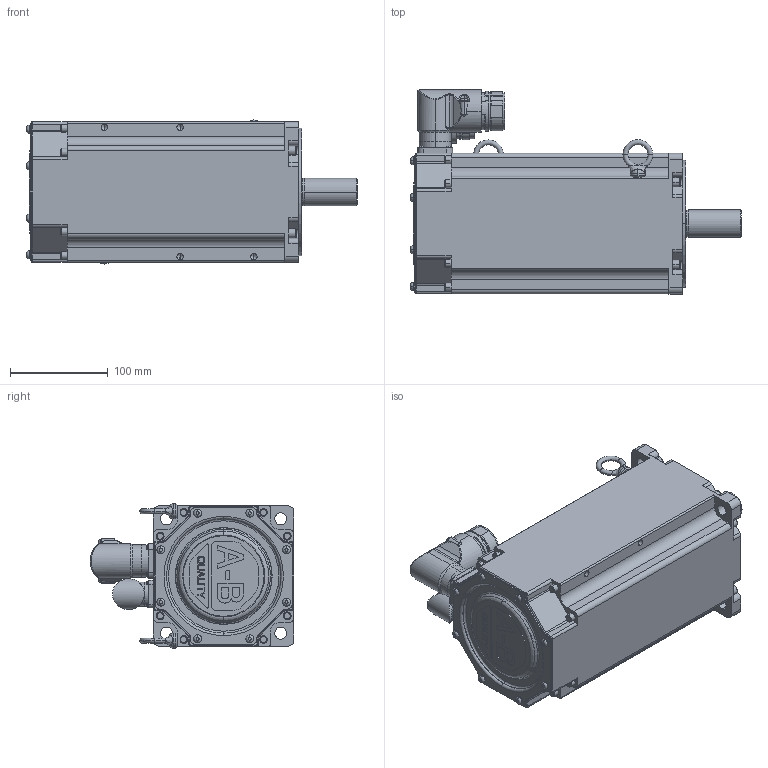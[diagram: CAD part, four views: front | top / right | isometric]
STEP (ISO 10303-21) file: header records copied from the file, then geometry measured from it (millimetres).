
FILE_DESCRIPTION (( 'STEP AP214' ), '1' );
FILE_NAME ('Rockwell Automation-MPL-A560x-xK72AA.STEP', '2015-07-08T13:17:24', ( 'Windows User' ), ( '' ), 'SwSTEP 2.0', 'SolidWorks 2015', '' );
FILE_SCHEMA (( 'AUTOMOTIVE_DESIGN' ));
Length unit declared in the file: inch
Products named in the file (6): Rockwell Automation-MPL-A560x-xK72AA_MPL-5xx-Eyebolt; Rockwell Automation-MPL-A560x-xK72AA_MPL-5xx-Encoder Connector; Rockwell Automation-MPL-A560x-xK72AA_MPL-5xx-Power Connector-M40; Rockwell Automation-MPL-A560x-xK72AA_MPL-5xx-Shaft_560-SHAFT-KEYLESS; Rockwell Automation-MPL-A560x-xK72AA_MPL-5xx-body_A560; Rockwell Automation-MPL-A560x-xK72AA
Assembly tree (6 placements, depth 2):
  Rockwell Automation-MPL-A560x-xK72AA
    Rockwell Automation-MPL-A560x-xK72AA_MPL-5xx-body_A560
    Rockwell Automation-MPL-A560x-xK72AA_MPL-5xx-Shaft_560-SHAFT-KEYLESS
    Rockwell Automation-MPL-A560x-xK72AA_MPL-5xx-Power Connector-M40
    Rockwell Automation-MPL-A560x-xK72AA_MPL-5xx-Encoder Connector
    Rockwell Automation-MPL-A560x-xK72AA_MPL-5xx-Eyebolt  x2
Bounding box: 337.82 x 208.24 x 147.22 mm (x, y, z)
Volume: 2861528.6 mm3; surface area: 403296.4 mm2
Topology: 6 solids, 6 shells, 1093 faces, 2666 edges, 1684 vertices
Faces by surface type: plane 417, cylinder 395, torus 130, cone 100, bspline 51
Entity records: 37619 total; most frequent: CARTESIAN_POINT 9764, DIRECTION 5618, ORIENTED_EDGE 5210, EDGE_CURVE 2605, AXIS2_PLACEMENT_3D 2144, VERTEX_POINT 1658, LINE 1330, VECTOR 1330
